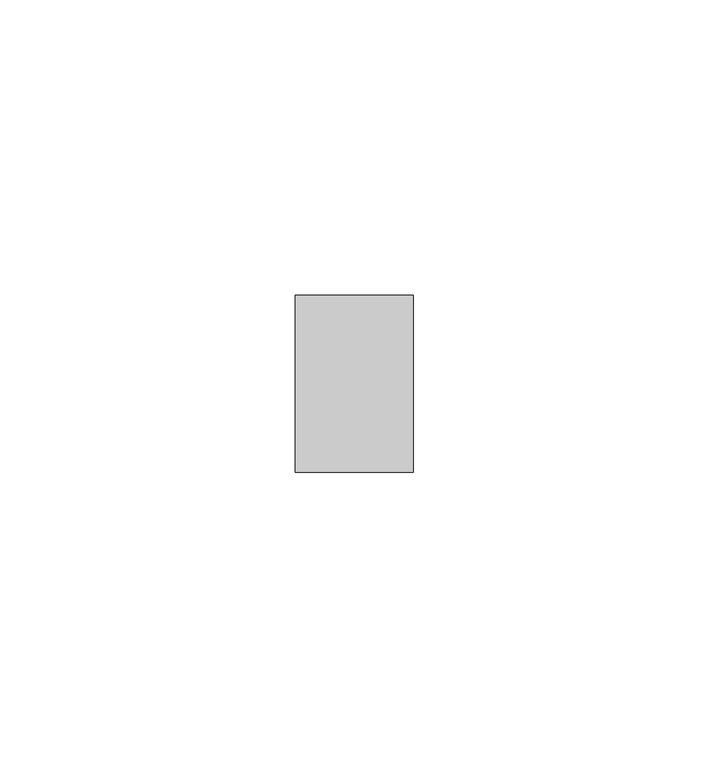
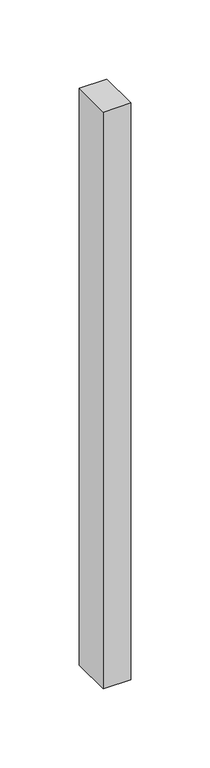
"""IFC4 building model written with IfcOpenShell, lengths in millimetres: member geometry, Прямоугольный импост : Квадрат 10 мм - Зазор между навесными плитами."""

from ifc_helpers import new_model, si_unit, frame, origin, place, context, project, spatial, polyline, outline, extrude, source, transform, mapped, element, save


def member_f3af1fec(model_context):
    return source(origin(), model_context, "Body", "SweptSolid", [
        extrude(outline(polyline([(10.0, 15.0), (10.0, -15.0), (-10.0, -15.0), (-10.0, 15.0), (10.0, 15.0)])), frame((0.0, 0.0, -444.0), z_axis=(0.0, 0.0, 1.0), x_axis=(1.0, 0.0, 0.0)), (0.0, 0.0, 1.0), 444.0),
    ])


if __name__ == "__main__":
    model = new_model("IFC4")
    model_context = context("Model", 3, world=origin())
    ifc_project = project(units=[si_unit("LENGTHUNIT", "METRE", prefix="MILLI")], contexts=[model_context])
    site = spatial("IfcSite", under=ifc_project)
    building = spatial("IfcBuilding", under=site)
    placement = place(None, origin())
    member_shape = member_f3af1fec(model_context)
    element("IfcMember", 1, ObjectType="Прямоугольный импост : Квадрат 10 мм - Зазор между навесными плитами", at=placement, inside=building, context=model_context, shape_type="MappedRepresentation", body=[
        mapped(member_shape, transform((0.0, 0.0, 0.0), x_axis=(1.0, 0.0, 0.0), y_axis=(0.0, 1.0, 0.0), z_axis=(0.0, 0.0, 1.0))),
    ])
    save(model, "model.ifc")
